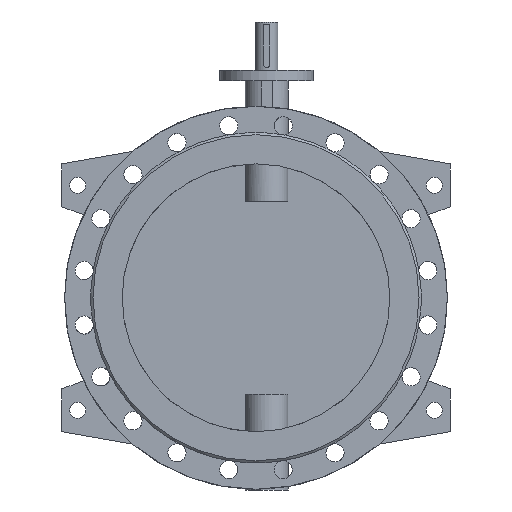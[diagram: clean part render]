
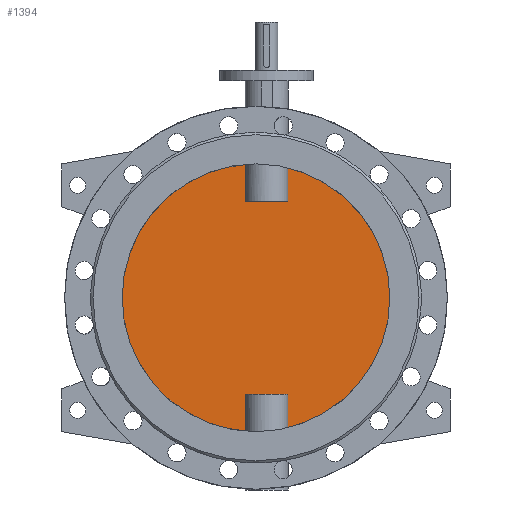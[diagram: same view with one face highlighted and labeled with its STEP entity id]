
A CAD part, front view. The second image highlights one B-rep face of the part: STEP entity #1394.
In plain terms, the highlighted planar face has unit normal (0, -1, 0).
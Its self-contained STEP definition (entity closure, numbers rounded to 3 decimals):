
#1394=ADVANCED_FACE('',(#2864),#2866,.F.);
#2864=FACE_BOUND('',#2865,.T.);
#2865=EDGE_LOOP('',(#3933,#3934,#3935,#3936,#3937,#3938,#3939,#3940));
#2866=PLANE('',#2867);
#2867=AXIS2_PLACEMENT_3D('',#2868,#2869,#2870);
#2868=CARTESIAN_POINT('',(0.,-5.,0.));
#2869=DIRECTION('',(0.,1.,0.));
#2870=DIRECTION('',(1.,0.,0.));
#3933=ORIENTED_EDGE('',*,*,#4478,.T.);
#3934=ORIENTED_EDGE('',*,*,#4484,.T.);
#3935=ORIENTED_EDGE('',*,*,#4485,.T.);
#3936=ORIENTED_EDGE('',*,*,#4486,.T.);
#3937=ORIENTED_EDGE('',*,*,#4480,.T.);
#3938=ORIENTED_EDGE('',*,*,#4487,.T.);
#3939=ORIENTED_EDGE('',*,*,#4488,.T.);
#3940=ORIENTED_EDGE('',*,*,#4489,.T.);
#4478=EDGE_CURVE('',#5341,#5342,#5343,.F.);
#4480=EDGE_CURVE('',#5346,#5344,#5347,.F.);
#4484=EDGE_CURVE('',#5342,#5353,#5354,.T.);
#4485=EDGE_CURVE('',#5353,#5355,#5356,.F.);
#4486=EDGE_CURVE('',#5355,#5346,#5357,.F.);
#4487=EDGE_CURVE('',#5344,#5358,#5359,.F.);
#4488=EDGE_CURVE('',#5358,#5360,#5361,.F.);
#4489=EDGE_CURVE('',#5360,#5341,#5362,.T.);
#5341=VERTEX_POINT('',#9556);
#5342=VERTEX_POINT('',#9557);
#5343=CIRCLE('',#9558,250.);
#5344=VERTEX_POINT('',#9562);
#5346=VERTEX_POINT('',#9653);
#5347=CIRCLE('',#9654,250.);
#5353=VERTEX_POINT('',#9764);
#5354=LINE('',#9765,#9766);
#5355=VERTEX_POINT('',#9768);
#5356=LINE('',#9769,#9770);
#5357=LINE('',#9772,#9773);
#5358=VERTEX_POINT('',#9775);
#5359=LINE('',#9776,#9777);
#5360=VERTEX_POINT('',#9779);
#5361=LINE('',#9780,#9781);
#5362=LINE('',#9783,#9784);
#9556=CARTESIAN_POINT('',(59.686,-5.,-242.771));
#9557=CARTESIAN_POINT('',(59.686,-5.,242.771));
#9558=AXIS2_PLACEMENT_3D('',#9559,#9560,#9561);
#9559=CARTESIAN_POINT('',(0.,-5.,0.));
#9560=DIRECTION('',(0.,1.,0.));
#9561=DIRECTION('',(0.239,0.,0.971));
#9562=CARTESIAN_POINT('',(-19.686,-5.,-249.224));
#9653=CARTESIAN_POINT('',(-19.686,-5.,249.224));
#9654=AXIS2_PLACEMENT_3D('',#9655,#9656,#9657);
#9655=CARTESIAN_POINT('',(0.,-5.,0.));
#9656=DIRECTION('',(0.,1.,0.));
#9657=DIRECTION('',(-0.079,0.,-0.997));
#9764=CARTESIAN_POINT('',(59.686,-5.,180.));
#9765=CARTESIAN_POINT('',(59.686,-5.,242.771));
#9766=VECTOR('',#9767,1.);
#9767=DIRECTION('',(0.,0.,-1.));
#9768=CARTESIAN_POINT('',(-19.686,-5.,180.));
#9769=CARTESIAN_POINT('',(-19.686,-5.,180.));
#9770=VECTOR('',#9771,1.);
#9771=DIRECTION('',(1.,0.,0.));
#9772=CARTESIAN_POINT('',(-19.686,-5.,249.224));
#9773=VECTOR('',#9774,1.);
#9774=DIRECTION('',(0.,0.,-1.));
#9775=CARTESIAN_POINT('',(-19.686,-5.,-180.));
#9776=CARTESIAN_POINT('',(-19.686,-5.,-180.));
#9777=VECTOR('',#9778,1.);
#9778=DIRECTION('',(0.,0.,-1.));
#9779=CARTESIAN_POINT('',(59.686,-5.,-180.));
#9780=CARTESIAN_POINT('',(59.686,-5.,-180.));
#9781=VECTOR('',#9782,1.);
#9782=DIRECTION('',(-1.,0.,0.));
#9783=CARTESIAN_POINT('',(59.686,-5.,-180.));
#9784=VECTOR('',#9785,1.);
#9785=DIRECTION('',(0.,0.,-1.));
